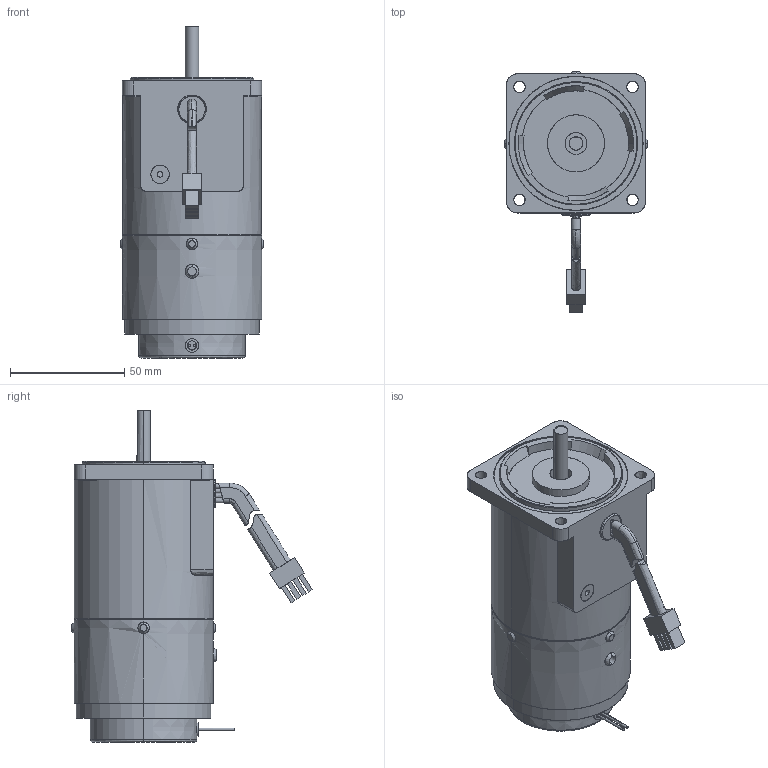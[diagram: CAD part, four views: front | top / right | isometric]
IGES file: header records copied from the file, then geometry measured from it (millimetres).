
Start section: SolidWorks IGES file using analytic representation for surfaces
Bounding box: 63 x 105.4 x 145.5 mm (x, y, z)
Surface area: 55634.8 mm2 (no closed solid volume)
Topology: 0 solids, 0 shells, 226 faces, 4509 edges, 4509 vertices
Faces by surface type: bspline 115, revolution 111
